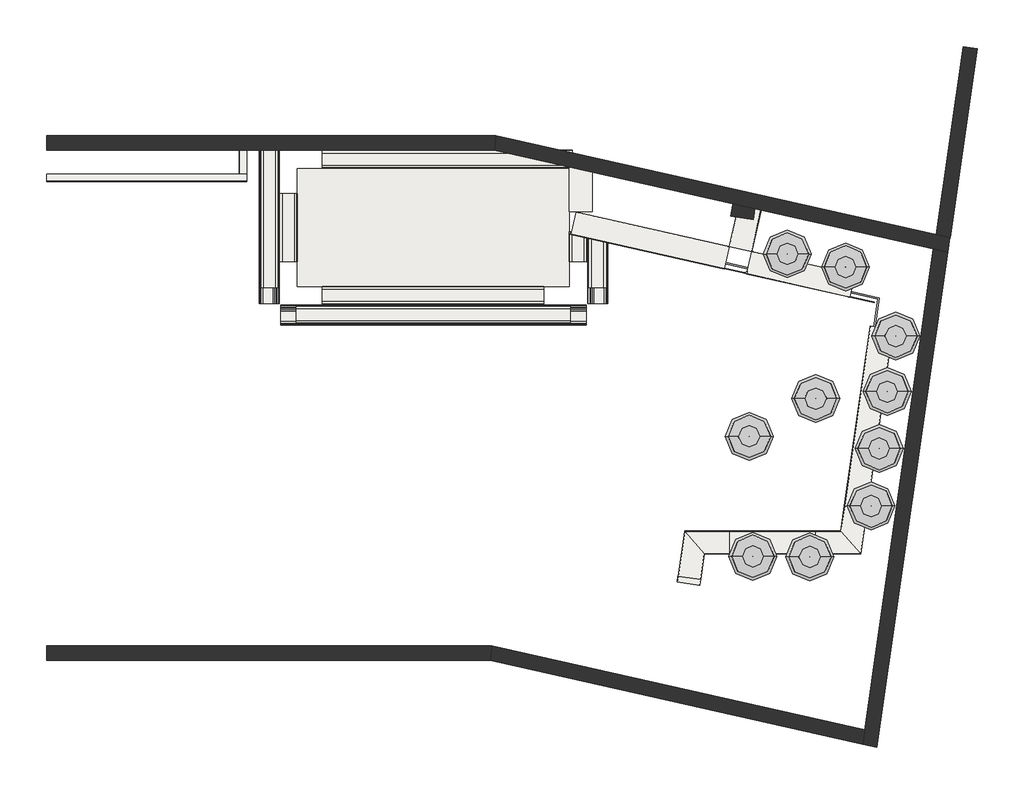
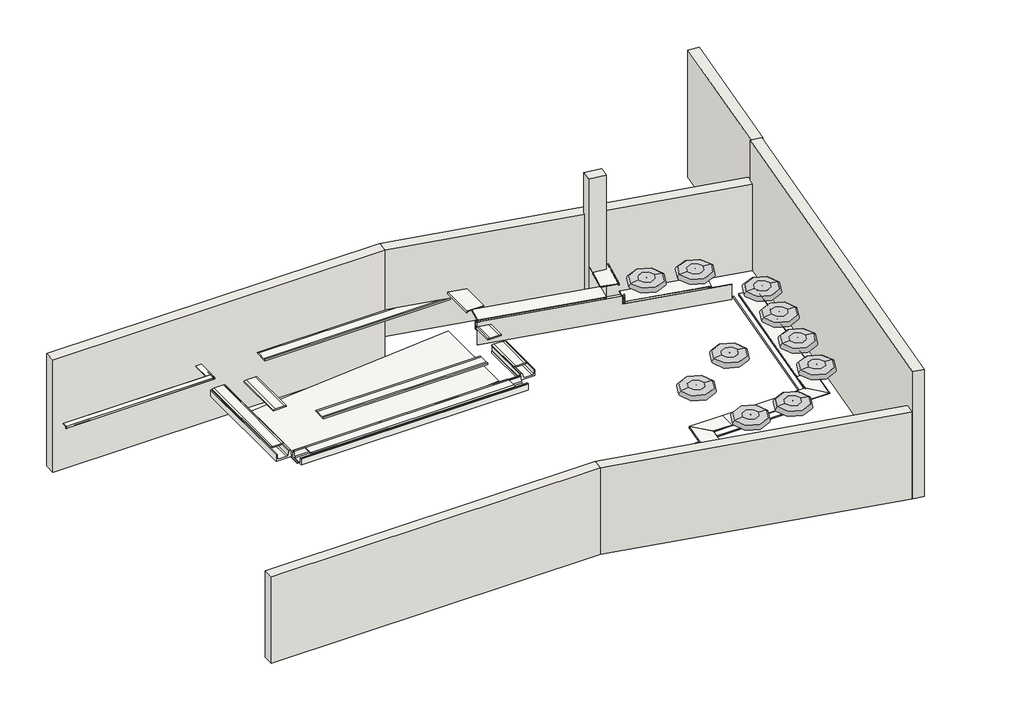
# One storey: 24 slabs, 13 proxies, 8 walls.
"""IFC4 building model written with IfcOpenShell, lengths in millimetres."""

from ifc_helpers import new_model, si_unit, frame, origin, place, context, project, spatial, polyline, outline, extrude, faceted_brep, transform, mapped, element, save
from components import generic_models_4ebe4863, generic_models_1510f7ba, generic_models_2a9a9363, generic_models_b54d9938, generic_models_0cd6d4ad, generic_models_71dcb820, led_led_ab5cb19d, slab_e95076c2, slab_1ea43698, slab_aa3e833d, slab_d7be1ad2, slab_7a2fa92d, slab_cee870ff, slab_68739a09, slab_0be0ad86, slab_a11157a7, slab_a5703b33, slab_c08b25ca, slab_a08d7ad8, slab_2f734ad2, slab_28db76ac, slab_2c108981, slab_f63c1f75, slab_a260efd0, slab_a503c661, slab_f9d4bdbd, slab_69884c0c, bloque_rs_941_0a784b4b, bloque_rs_941_939d20ff, bloque_rs_941_035bc7f0

model = new_model("IFC4")

# Units and contexts
model_context = context("Model", 3, world=origin())
ifc_project = project(units=[si_unit("LENGTHUNIT", "METRE", prefix="MILLI")], contexts=[model_context])

# Site, building, storey
site = spatial("IfcSite", under=ifc_project)
building = spatial("IfcBuilding", under=site)
storey = spatial("IfcBuildingStorey", under=building, Name="3_NFondo1P1 -1.50", Elevation=-1500.0)

# Proxies
placement = place(None, origin())
generic_models_shape = generic_models_4ebe4863(model_context)
element("IfcBuildingElementProxy", 1, Name="COJIN3 : COJIN", ObjectType="COJIN3 : COJIN", at=placement, inside=storey, context=model_context, shape_type="MappedRepresentation", body=[
    mapped(generic_models_shape, transform((170.8298849, 0.0, 0.0), x_axis=(1.0, 0.0, 0.0), y_axis=(0.0, 1.0, 0.0), z_axis=(0.0, 0.0, 1.0))),
])
element("IfcBuildingElementProxy", 2, Name="COJIN1 : COJIN", ObjectType="COJIN1 : COJIN", at=placement, inside=storey, context=model_context, shape_type="MappedRepresentation", body=[
    mapped(generic_models_shape, transform((1013.5965973, 700.3031036, 0.0), x_axis=(1.0, 0.0, 0.0), y_axis=(0.0, 1.0, 0.0), z_axis=(0.0, 0.0, 1.0))),
])
element("IfcBuildingElementProxy", 3, Name="COJIN2 : COJIN", ObjectType="COJIN2 : COJIN", at=placement, inside=storey, context=model_context, shape_type="MappedRepresentation", body=[
    mapped(generic_models_shape, transform((1124.1707716, 1492.7513524, 0.0), x_axis=(1.0, 0.0, 0.0), y_axis=(0.0, 1.0, 0.0), z_axis=(0.0, 0.0, 1.0))),
])
element("IfcBuildingElementProxy", 4, Name="COJIN4 : COJIN", ObjectType="COJIN4 : COJIN", at=placement, inside=storey, context=model_context, shape_type="MappedRepresentation", body=[
    mapped(generic_models_shape, transform((1234.7449458, 2275.9850867, 0.0), x_axis=(1.0, 0.0, 0.0), y_axis=(0.0, 1.0, 0.0), z_axis=(0.0, 0.0, 1.0))),
])
element("IfcBuildingElementProxy", 5, Name="COJIN5 : COJIN", ObjectType="COJIN5 : COJIN", at=placement, inside=storey, context=model_context, shape_type="MappedRepresentation", body=[
    mapped(generic_models_shape, transform((1354.5336346, 3040.7897919, 0.0), x_axis=(1.0, 0.0, 0.0), y_axis=(0.0, 1.0, 0.0), z_axis=(0.0, 0.0, 1.0))),
])
element("IfcBuildingElementProxy", 6, Name="COJIN7 : COJIN", ObjectType="COJIN7 : COJIN", at=placement, inside=storey, context=model_context, shape_type="MappedRepresentation", body=[
    mapped(generic_models_shape, transform((661.8740746, 3992.241244, 0.0), x_axis=(1.0, 0.0, 0.0), y_axis=(0.0, 1.0, 0.0), z_axis=(0.0, 0.0, 1.0))),
])
generic_models_2_shape = generic_models_1510f7ba(model_context)
element("IfcBuildingElementProxy", 7, Name="COJIN8 : COJIN", ObjectType="COJIN8 : COJIN", at=placement, inside=storey, context=model_context, shape_type="MappedRepresentation", body=[
    mapped(generic_models_2_shape, transform((0.0, 0.0, 0.0), x_axis=(1.0, 0.0, 0.0), y_axis=(0.0, 1.0, 0.0), z_axis=(0.0, 0.0, 1.0))),
])
element("IfcBuildingElementProxy", 8, Name="COJIN9 : COJIN", ObjectType="COJIN9 : COJIN", at=placement, inside=storey, context=model_context, shape_type="MappedRepresentation", body=[
    mapped(generic_models_shape, transform((-612.8872921, 6.9674968, 0.0), x_axis=(1.0, 0.0, 0.0), y_axis=(0.0, 1.0, 0.0), z_axis=(0.0, 0.0, 1.0))),
])
generic_models_3_shape = generic_models_2a9a9363(model_context)
element("IfcBuildingElementProxy", 9, Name="COJIN10 : COJIN", ObjectType="COJIN10 : COJIN", at=placement, inside=storey, context=model_context, shape_type="MappedRepresentation", body=[
    mapped(generic_models_3_shape, transform((0.0, 0.0, 0.0), x_axis=(1.0, 0.0, 0.0), y_axis=(0.0, 1.0, 0.0), z_axis=(0.0, 0.0, 1.0))),
])
generic_models_4_shape = generic_models_b54d9938(model_context)
element("IfcBuildingElementProxy", 10, Name="COJIN11 : COJIN", ObjectType="COJIN11 : COJIN", at=placement, inside=storey, context=model_context, shape_type="MappedRepresentation", body=[
    mapped(generic_models_4_shape, transform((0.0, 0.0, 0.0), x_axis=(1.0, 0.0, 0.0), y_axis=(0.0, 1.0, 0.0), z_axis=(0.0, 0.0, 1.0))),
])
generic_models_5_shape = generic_models_0cd6d4ad(model_context)
element("IfcBuildingElementProxy", 11, Name="ROSA GRES_040A : Pieza 040A_Mistery_Grey_Liso", ObjectType="ROSA GRES_040A : Pieza 040A_Mistery_Grey_Liso", at=placement, inside=storey, context=model_context, shape_type="MappedRepresentation", body=[
    mapped(generic_models_5_shape, transform((9833.5386661, 9931.7145266, -482.3941163), x_axis=(-0.9992277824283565, -0.03929171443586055, 0.0), y_axis=(-0.03929171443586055, 0.9992277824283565, 0.0), z_axis=(0.0, 0.0, -1.0))),
])
generic_models_6_shape = generic_models_71dcb820(model_context)
element("IfcBuildingElementProxy", 12, Name="ROSA GRES_040A : Pieza 040A_Mistery_Grey_Liso", ObjectType="ROSA GRES_040A : Pieza 040A_Mistery_Grey_Liso", at=placement, inside=storey, context=model_context, shape_type="MappedRepresentation", body=[
    mapped(generic_models_6_shape, transform((12276.5207041, 9386.415699, -482.3941163), x_axis=(0.9759426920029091, -0.21802720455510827, 0.0), y_axis=(-0.21802720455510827, -0.9759426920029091, 0.0), z_axis=(0.0, 0.0, -1.0))),
])
led_led_shape = led_led_ab5cb19d(model_context)
element("IfcBuildingElementProxy", 13, Name="led : led", ObjectType="led : led", at=placement, inside=storey, context=model_context, shape_type="MappedRepresentation", body=[
    mapped(led_led_shape, transform((0.0, 0.0, 0.0), x_axis=(1.0, 0.0, 0.0), y_axis=(0.0, 1.0, 0.0), z_axis=(0.0, 0.0, 1.0))),
])

# Slabs
element("IfcSlab", 14, ObjectType="Pieza 316_Patrón 1/3_Tresor_Java_Anti-Slip", at=placement, inside=storey, context=model_context, shape_type="SweptSolid", body=[
    extrude(outline(polyline([(-1509.0288775, 6089.5997173), (-1209.0288775, 9831.5624872), (-1200.0, 9831.5624872), (-1500.0, 6089.5997173), (-1509.0288775, 6089.5997173)])), frame((0.0, 9210.953544, 0.0), z_axis=(0.0, 1.0, 0.0), x_axis=(0.0, 0.0, 1.0)), (0.0, 0.0, 1.0), 1628.9468229),
])
slab_shape = slab_e95076c2(model_context)
element("IfcSlab", 15, ObjectType="ROSA GRES_L62 : Pieza L62_Mistery_Grey_Anti-Slip", at=placement, inside=storey, context=model_context, shape_type="MappedRepresentation", body=[
    mapped(slab_shape, transform((12344.8712145, 9693.286822, -450.0), x_axis=(0.21934695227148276, 0.9756469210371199, 0.0), y_axis=(-0.9756469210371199, 0.21934695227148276, 0.0), z_axis=(0.0, 0.0, 1.0))),
])
slab_2_shape = slab_1ea43698(model_context)
element("IfcSlab", 16, ObjectType="ROSA GRES_L62 : Pieza L62_Mistery_Grey_Anti-Slip", at=placement, inside=storey, context=model_context, shape_type="MappedRepresentation", body=[
    mapped(slab_2_shape, transform((12275.7769246, 9385.9580419, -600.0), x_axis=(0.9756469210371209, -0.21934695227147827, 0.0), y_axis=(0.21934695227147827, 0.9756469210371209, 0.0), z_axis=(0.0, 0.0, 1.0))),
])
slab_3_shape = slab_aa3e833d(model_context)
element("IfcSlab", 17, ObjectType="ROSA GRES_L62 : Pieza L62_Mistery_Grey_Anti-Slip", at=placement, inside=storey, context=model_context, shape_type="MappedRepresentation", body=[
    mapped(slab_3_shape, transform((13974.0038107, 8668.9004449, -600.0), x_axis=(-0.14137738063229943, -0.9899557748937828, 0.0), y_axis=(0.9899557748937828, -0.14137738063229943, 0.0), z_axis=(0.0, 0.0, 1.0))),
])
slab_4_shape = slab_d7be1ad2(model_context)
element("IfcSlab", 18, ObjectType="ROSA GRES_L62 : Pieza L62_Mistery_Grey_Anti-Slip", at=placement, inside=storey, context=model_context, shape_type="MappedRepresentation", body=[
    mapped(slab_4_shape, transform((12043.7601211, 5842.5767075, -600.0), x_axis=(1.0, 0.0, 0.0), y_axis=(0.0, 1.0, 0.0), z_axis=(0.0, 0.0, 1.0))),
])
slab_5_shape = slab_7a2fa92d(model_context)
element("IfcSlab", 19, ObjectType="ROSA GRES_L62 : Pieza L62_Mistery_Grey_Anti-Slip", at=placement, inside=storey, context=model_context, shape_type="MappedRepresentation", body=[
    mapped(slab_5_shape, transform((11316.4191317, 5141.8268104, -600.0), x_axis=(0.14131124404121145, 0.9899652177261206, 0.0), y_axis=(-0.9899652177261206, 0.14131124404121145, 0.0), z_axis=(0.0, 0.0, 1.0))),
])
slab_6_shape = slab_cee870ff(model_context)
element("IfcSlab", 20, ObjectType="ROSA GRES_L62 (corte-profundidad) : Pieza L62_Mistery_Grey_Anti-Slip", at=placement, inside=storey, context=model_context, shape_type="MappedRepresentation", body=[
    mapped(slab_6_shape, transform((13219.0860827, 5842.5767075, -614.0), x_axis=(1.0, 0.0, 0.0), y_axis=(0.0, 1.0, 0.0), z_axis=(0.0, 0.0, 1.0))),
])
slab_7_shape = slab_68739a09(model_context)
element("IfcSlab", 21, ObjectType="ROSA GRES_L62 (corte-profundidad) : Pieza L62_Mistery_Grey_Anti-Slip", at=placement, inside=storey, context=model_context, shape_type="MappedRepresentation", body=[
    mapped(slab_7_shape, transform((13620.1659723, 6190.3112288, -614.0), x_axis=(-0.14137738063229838, -0.9899557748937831, 0.0), y_axis=(0.9899557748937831, -0.14137738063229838, 0.0), z_axis=(0.0, 0.0, 1.0))),
])
slab_8_shape = slab_0be0ad86(model_context)
element("IfcSlab", 22, ObjectType="ROSA GRES_L62 (corte-profundidad) : Pieza L62_Mistery_Grey_Anti-Slip", at=placement, inside=storey, context=model_context, shape_type="MappedRepresentation", body=[
    mapped(slab_8_shape, transform((12044.3851211, 5842.5767075, -614.0), x_axis=(-0.9999999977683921, -6.680730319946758e-05, 0.0), y_axis=(6.680730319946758e-05, -0.9999999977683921, 0.0), z_axis=(0.0, 0.0, 1.0))),
])
slab_9_shape = slab_a11157a7(model_context)
element("IfcSlab", 23, ObjectType="ROSA GRES_L62 (corte-profundidad) : Pieza L62_Mistery_Grey_Anti-Slip", at=placement, inside=storey, context=model_context, shape_type="MappedRepresentation", body=[
    mapped(slab_9_shape, transform((11330.1126342, 5221.8473435, -614.0), x_axis=(0.1413112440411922, 0.9899652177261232, 0.0), y_axis=(-0.9899652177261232, 0.1413112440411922, 0.0), z_axis=(0.0, 0.0, 1.0))),
])
slab_10_shape = slab_a5703b33(model_context)
element("IfcSlab", 24, ObjectType="ROSA GRES_L62 : Pieza L62_Mistery_Grey_Anti-Slip", at=placement, inside=storey, context=model_context, shape_type="MappedRepresentation", body=[
    mapped(slab_10_shape, transform((9855.6847369, 9930.048157, -450.0), x_axis=(0.9756469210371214, -0.2193469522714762, 0.0), y_axis=(0.2193469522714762, 0.9756469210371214, 0.0), z_axis=(0.0, 0.0, 1.0))),
])
slab_11_shape = slab_c08b25ca(model_context)
element("IfcSlab", 25, ObjectType="ROSA GRES_L62 : Pieza L62_Mistery_Grey_Anti-Slip", at=placement, inside=storey, context=model_context, shape_type="MappedRepresentation", body=[
    mapped(slab_11_shape, transform((9831.8838522, 10245.3241972, -450.0), x_axis=(0.0, 1.0, 0.0), y_axis=(-1.0, 0.0, 0.0), z_axis=(0.0, 0.0, 1.0))),
])
slab_12_shape = slab_a08d7ad8(model_context)
element("IfcSlab", 26, ObjectType="ROSA GRES_L62 : Pieza L62_Mistery_Grey_Anti-Slip", at=placement, inside=storey, context=model_context, shape_type="MappedRepresentation", body=[
    mapped(slab_12_shape, transform((5390.5713522, 11090.0029066, -450.0), x_axis=(0.0, -1.0, 0.0), y_axis=(1.0, 0.0, 0.0), z_axis=(0.0, 0.0, 1.0))),
])
slab_13_shape = slab_2f734ad2(model_context)
element("IfcSlab", 27, ObjectType="ROSA GRES_L62 : Pieza L62_Mistery_Grey_Anti-Slip", at=placement, inside=storey, context=model_context, shape_type="MappedRepresentation", body=[
    mapped(slab_13_shape, transform((2634.8590964, 10660.0029066, -450.0), x_axis=(1.0, 0.0, 0.0), y_axis=(0.0, 1.0, 0.0), z_axis=(0.0, 0.0, 1.0))),
])
slab_14_shape = slab_28db76ac(model_context)
element("IfcSlab", 28, ObjectType="ROSA GRES_245 CM_Colocación en plano : Rejilla 245 CM_Mistery_Grey_Anti-Slip", at=placement, inside=storey, context=model_context, shape_type="MappedRepresentation", body=[
    mapped(slab_14_shape, transform((5584.8213522, 11082.0736523, -1000.0), x_axis=(0.0, -1.0, 0.0), y_axis=(1.0, 0.0, 0.0), z_axis=(0.0, 0.0, 1.0))),
])
slab_15_shape = slab_2c108981(model_context)
element("IfcSlab", 29, ObjectType="ROSA GRES_245 CM_Colocación en plano : Rejilla 245 CM_Mistery_Grey_Anti-Slip", at=placement, inside=storey, context=model_context, shape_type="MappedRepresentation", body=[
    mapped(slab_15_shape, transform((10344.3838522, 9900.4469515, -1000.0), x_axis=(0.0, -1.0, 0.0), y_axis=(1.0, 0.0, 0.0), z_axis=(0.0, 0.0, 1.0))),
])
slab_16_shape = slab_f63c1f75(model_context)
element("IfcSlab", 30, ObjectType="ROSA GRES_245 CM_Colocación en plano : Rejilla 245 CM_Mistery_Grey_Anti-Slip", at=placement, inside=storey, context=model_context, shape_type="MappedRepresentation", body=[
    mapped(slab_16_shape, transform((9844.8213522, 8702.0736523, -1000.0), x_axis=(-1.0, 0.0, 0.0), y_axis=(0.0, -1.0, 0.0), z_axis=(0.0, 0.0, 1.0))),
])
slab_17_shape = slab_a260efd0(model_context)
element("IfcSlab", 31, ObjectType="ROSA GRES_I25_Inclinación : Pieza I25_Tresor_Java_Anti-Slip", at=placement, inside=storey, context=model_context, shape_type="MappedRepresentation", body=[
    mapped(slab_17_shape, transform((9483.7024872, 9210.953544, -600.0), x_axis=(-1.0, 0.0, 0.0), y_axis=(0.0, -1.0, 0.0), z_axis=(0.0, 0.0, 1.0))),
])
slab_18_shape = slab_a503c661(model_context)
element("IfcSlab", 32, ObjectType="ROSA GRES_I25_Inclinación : Pieza I25_Tresor_Java_Anti-Slip", at=placement, inside=storey, context=model_context, shape_type="MappedRepresentation", body=[
    mapped(slab_18_shape, transform((9831.8838522, 9558.871098, -600.0), x_axis=(0.0, 1.0, 0.0), y_axis=(-1.0, 0.0, 0.0), z_axis=(0.0, 0.0, 1.0))),
])
slab_19_shape = slab_f9d4bdbd(model_context)
element("IfcSlab", 33, ObjectType="ROSA GRES_I25_Inclinación : Pieza I25_Tresor_Java_Anti-Slip", at=placement, inside=storey, context=model_context, shape_type="MappedRepresentation", body=[
    mapped(slab_19_shape, transform((9871.5713522, 10840.953544, -600.0), x_axis=(-1.0, 0.0, 0.0), y_axis=(0.0, -1.0, 0.0), z_axis=(0.0, 0.0, 1.0))),
])
slab_20_shape = slab_69884c0c(model_context)
element("IfcSlab", 34, ObjectType="ROSA GRES_I25_Inclinación : Pieza I25_Tresor_Java_Anti-Slip", at=placement, inside=storey, context=model_context, shape_type="MappedRepresentation", body=[
    mapped(slab_20_shape, transform((6089.5713522, 9558.9222834, -600.0), x_axis=(0.0, 1.0, 0.0), y_axis=(-1.0, 0.0, 0.0), z_axis=(0.0, 0.0, 1.0))),
])
bloque_rs_941_shape = bloque_rs_941_0a784b4b(model_context)
element("IfcSlab", 35, ObjectType="ROSA GRES_RS 941 : Bloque_RS 941", at=placement, inside=storey, context=model_context, shape_type="MappedRepresentation", body=[
    mapped(bloque_rs_941_shape, transform((5856.4597173, 8975.3687177, -1135.0), x_axis=(0.0, 1.0, 0.0), y_axis=(-1.0, 0.0, 0.0), z_axis=(0.0, 0.0, 1.0))),
])
bloque_rs_941_2_shape = bloque_rs_941_939d20ff(model_context)
element("IfcSlab", 36, ObjectType="ROSA GRES_RS 941 : Bloque_RS 941", at=placement, inside=storey, context=model_context, shape_type="MappedRepresentation", body=[
    mapped(bloque_rs_941_2_shape, transform((10068.4316946, 8975.3687177, -1135.0), x_axis=(-1.0, 0.0, 0.0), y_axis=(0.0, -1.0, 0.0), z_axis=(0.0, 0.0, 1.0))),
])
bloque_rs_941_3_shape = bloque_rs_941_035bc7f0(model_context)
element("IfcSlab", 37, ObjectType="ROSA GRES_RS 941 : Bloque_RS 941", at=placement, inside=storey, context=model_context, shape_type="MappedRepresentation", body=[
    mapped(bloque_rs_941_3_shape, transform((10068.4316946, 8975.3687177, -1135.0), x_axis=(0.0, 1.0, 0.0), y_axis=(-1.0, 0.0, 0.0), z_axis=(0.0, 0.0, 1.0))),
])

# Walls
element("IfcWall", 38, ObjectType="Pieza 316_Patrón 1/3_Mistery_Grey_Liso", at=placement, inside=storey, context=model_context, shape_type="Brep", body=[
    faceted_brep([(14033.915505, 8999.9143501, -931.7167953), (9851.3239102, 9940.2532156, -931.7167953), (9851.3239102, 9940.2532156, -485.0), (12239.4334157, 9403.3535131, -485.0), (12239.4334157, 9403.3535131, -637.3941163), (14033.915505, 8999.9143501, -637.3941163), (14031.9413824, 8991.1335278, -931.7167953), (14031.9413824, 8991.1335278, -637.3941163), (14029.2017784, 8991.7494512, -637.3941163), (14020.3932798, 8993.729796, -637.3941163), (12237.4592932, 9394.5726908, -637.3941163), (12237.4592932, 9394.5726908, -485.0), (9849.3497876, 9931.4723934, -485.0), (9849.3497876, 9931.4723934, -931.7167953), (14020.3932798, 8993.729796, -931.7167953), (14029.2017784, 8991.7494512, -931.7167953)], [[[0, 1, 2, 3, 4, 5]], [[6, 7, 8, 9, 10, 11, 12, 13, 14, 15]], [[1, 0, 6, 15, 14, 13]], [[2, 1, 13, 12]], [[5, 4, 10, 9, 8, 7]], [[0, 5, 7, 6]], [[3, 2, 12, 11]], [[4, 3, 11, 10]]]),
])
element("IfcWall", 39, ObjectType="GENÉRICO_MURO BASE 20 cm", at=placement, inside=storey, context=model_context, shape_type="SweptSolid", body=[
    extrude(outline(polyline([(8799.3387169, 11090.0029066), (2634.8590964, 11090.0029066), (2634.8590964, 11290.0029066), (8821.5437932, 11290.0029066), (8799.3387169, 11090.0029066)])), frame((0.0, 0.0, -1609.8049928), z_axis=(0.0, 0.0, 1.0), x_axis=(1.0, 0.0, 0.0)), (0.0, 0.0, 1.0), 2209.8049928),
])
element("IfcWall", 40, ObjectType="GENÉRICO_MURO BASE 20 cm", at=placement, inside=storey, context=model_context, shape_type="Brep", body=[
    faceted_brep([(8799.3387169, 11090.0029066, -1100.0), (14843.5755039, 9731.1251308, -1100.0), (15039.3199168, 9687.1174684, -1100.0), (15039.3199168, 9687.1174684, 600.0), (14843.5755039, 9731.1251308, 600.0), (8799.3387169, 11090.0029066, 600.0), (8821.5437932, 11290.0029066, -1100.0), (8821.5437932, 11290.0029066, 600.0), (14883.511954, 9927.1387268, 600.0), (15067.6845144, 9885.732672, 600.0), (15067.6845144, 9885.732672, -1100.0), (14883.511954, 9927.1387268, -1100.0), (15054.6255866, 9794.2911634, 600.0)], [[[0, 1, 2, 3, 4, 5]], [[6, 7, 8, 9, 10, 11]], [[2, 1, 0, 6, 11, 10]], [[5, 4, 3, 12, 9, 8, 7]], [[0, 5, 7, 6]], [[3, 2, 10, 9, 12]]]),
])
element("IfcWall", 41, ObjectType="GENÉRICO_MURO BASE 20 cm", at=placement, inside=storey, context=model_context, shape_type="Brep", body=[
    faceted_brep([(14843.5755039, 9731.1251308, -1100.0), (13897.4415213, 3106.0851441, -1100.0), (13869.0769236, 2907.4699404, -1100.0), (13869.0769236, 2907.4699404, 600.0), (13869.0769236, 2907.4699404, 1400.0), (14173.9953955, 5042.5767075, 1400.0), (14188.276577, 5142.5767075, 1400.0), (14856.6344317, 9822.5666395, 1400.0), (14856.6344317, 9822.5666395, 600.0), (14843.5755039, 9731.1251308, 600.0), (15039.3199168, 9687.1174684, -1100.0), (15039.3199168, 9687.1174684, 600.0), (15054.6255866, 9794.2911634, 600.0), (15054.6255866, 9794.2911634, 1400.0), (14064.8213365, 2863.4622779, 1400.0), (14064.8213365, 2863.4622779, -1100.0)], [[[0, 1, 2, 3, 4, 5, 6, 7, 8, 9]], [[10, 11, 12, 13, 14, 15]], [[2, 1, 0, 10, 15]], [[7, 6, 5, 4, 14, 13]], [[4, 3, 2, 15, 14]], [[8, 7, 13, 12]], [[8, 12, 11, 9]], [[0, 9, 11, 10]]]),
])
element("IfcWall", 42, ObjectType="GENÉRICO_MURO BASE 20 cm", at=placement, inside=storey, context=model_context, shape_type="SweptSolid", body=[
    extrude(outline(polyline([(8764.8590964, 4260.0029066), (13897.4415213, 3106.0851441), (13869.0769236, 2907.4699404), (8742.6540202, 4060.0029066), (8764.8590964, 4260.0029066)])), frame((0.0, 0.0, -1100.0), z_axis=(0.0, 0.0, 1.0), x_axis=(1.0, 0.0, 0.0)), (0.0, 0.0, 1.0), 1700.0),
])
element("IfcWall", 43, ObjectType="GENÉRICO_MURO BASE 20 cm", at=placement, inside=storey, context=model_context, shape_type="SweptSolid", body=[
    extrude(outline(polyline([(2634.8590964, 4260.0029066), (8764.8590964, 4260.0029066), (8742.6540202, 4060.0029066), (2634.8590964, 4060.0029066), (2634.8590964, 4260.0029066)])), frame((0.0, 0.0, -1100.0), z_axis=(0.0, 0.0, 1.0), x_axis=(1.0, 0.0, 0.0)), (0.0, 0.0, 1.0), 1700.0),
])
element("IfcWall", 44, ObjectType="GENÉRICO_MURO BASE 20 cm", at=placement, inside=storey, context=model_context, shape_type="SweptSolid", body=[
    extrude(outline(polyline([(12086.136573, 10377.3732898), (12393.1196744, 10334.2296285), (12365.2850542, 10136.1760148), (12058.3019528, 10179.3196761), (12086.136573, 10377.3732898)])), frame((0.0, 0.0, -1100.0), z_axis=(0.0, 0.0, 1.0), x_axis=(1.0, 0.0, 0.0)), (0.0, 0.0, 1.0), 2500.0),
])
element("IfcWall", 45, ObjectType="GENÉRICO_MURO pared exterior vecino", at=placement, inside=storey, context=model_context, shape_type="Brep", body=[
    faceted_brep([(15253.6268605, 12518.7653886, -1100.0), (14883.511954, 9927.1387268, -1100.0), (14883.511954, 9927.1387268, 600.0), (14868.2062842, 9819.9650318, 600.0), (14868.2062842, 9819.9650318, 1400.0), (15253.6268605, 12518.7653886, 1400.0), (15451.6180155, 12490.4899124, -1100.0), (15451.6180155, 12490.4899124, 1400.0), (15066.1974391, 9791.6895556, 1400.0), (15066.1974391, 9791.6895556, 600.0), (15079.2563669, 9883.1310643, 600.0), (15079.2563669, 9883.1310643, -1100.0), (15067.6845144, 9885.732672, -1100.0), (15067.6845144, 9885.732672, 600.0)], [[[0, 1, 2, 3, 4, 5]], [[6, 7, 8, 9, 10, 11]], [[1, 0, 6, 11, 12]], [[5, 4, 8, 7]], [[0, 5, 7, 6]], [[4, 3, 9, 8]], [[9, 3, 2, 13, 10]], [[2, 1, 12, 11, 10, 13]]]),
])

save(model, "model.ifc")
